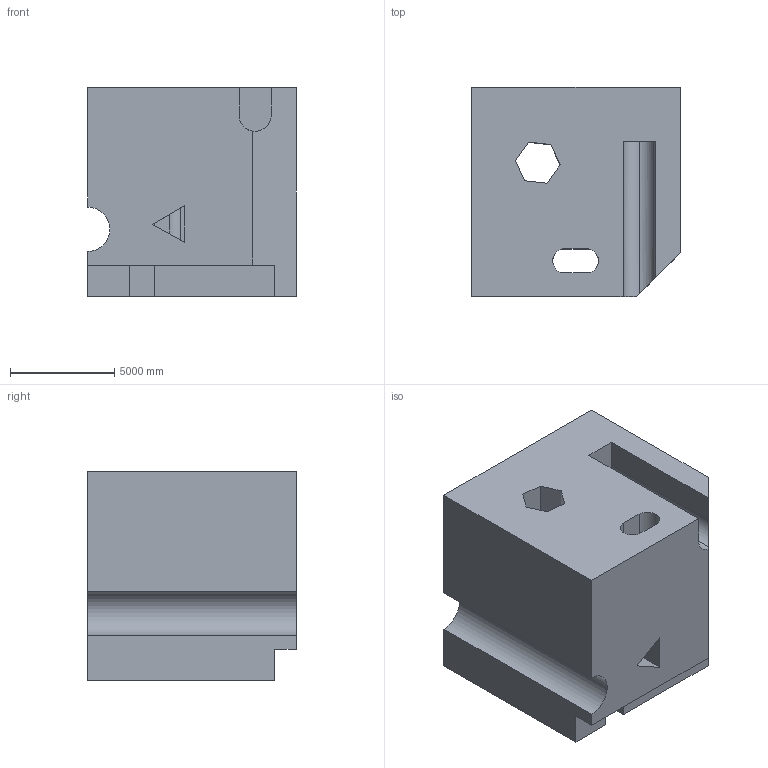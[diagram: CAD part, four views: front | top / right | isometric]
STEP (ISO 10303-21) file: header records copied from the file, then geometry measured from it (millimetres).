
FILE_DESCRIPTION (( 'STEP AP203' ), '1' );
FILE_NAME ('1735.STEP', '2022-08-25T15:35:58', ( 'user' ), ( '' ), 'SwSTEP 2.0', 'SolidWorks 2021', '' );
FILE_SCHEMA (( 'CONFIG_CONTROL_DESIGN' ));
Length unit declared in the file: centimetre
Products named in the file (1): 1735
Bounding box: 10000 x 10000 x 10000 mm (x, y, z)
Volume: 859236519838.7 mm3; surface area: 756286312.6 mm2
Topology: 1 solids, 1 shells, 37 faces, 114 edges, 76 vertices
Faces by surface type: plane 31, cylinder 6
Entity records: 1352 total; most frequent: CARTESIAN_POINT 240, ORIENTED_EDGE 228, DIRECTION 197, EDGE_CURVE 114, LINE 99, VECTOR 99, VERTEX_POINT 76, AXIS2_PLACEMENT_3D 49
